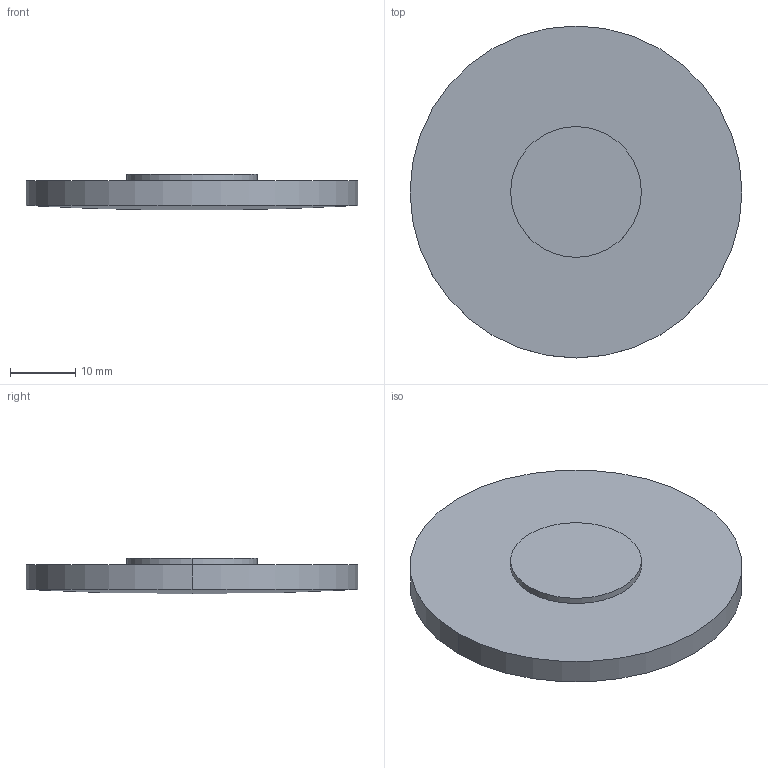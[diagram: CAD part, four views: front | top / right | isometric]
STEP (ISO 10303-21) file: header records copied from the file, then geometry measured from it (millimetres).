
FILE_DESCRIPTION(('STEP AP214'),'1');
FILE_NAME('LLQ-51-1M.STEP','2020-03-09T17:41:49',(' '),(' '),'Spatial InterOp 3D',' ',' ');
FILE_SCHEMA(('AUTOMOTIVE_DESIGN { 1 0 10303 214 1 1 1 1 }'));
Length unit declared in the file: millimetre
Products named in the file (1): 1
Bounding box: 50.8 x 50.8 x 5.5 mm (x, y, z)
Volume: 8740.5 mm3; surface area: 5355.1 mm2
Topology: 2 solids, 2 shells, 9 faces, 16 edges, 9 vertices
Faces by surface type: cylinder 4, plane 3, sphere 2
Entity records: 229 total; most frequent: DIRECTION 46, CARTESIAN_POINT 34, ORIENTED_EDGE 28, AXIS2_PLACEMENT_3D 21, EDGE_CURVE 14, CIRCLE 10, ADVANCED_FACE 9, FACE_OUTER_BOUND 9
